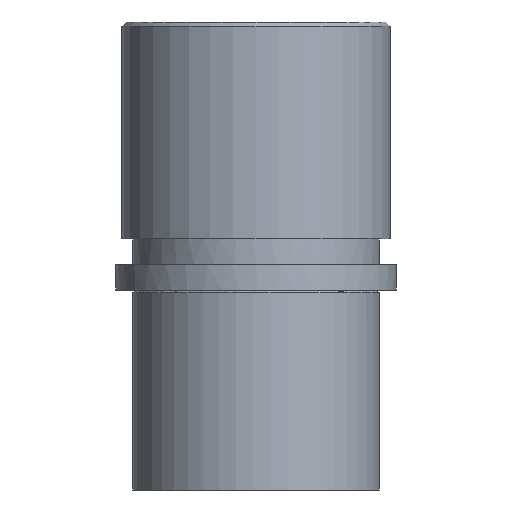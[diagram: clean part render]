
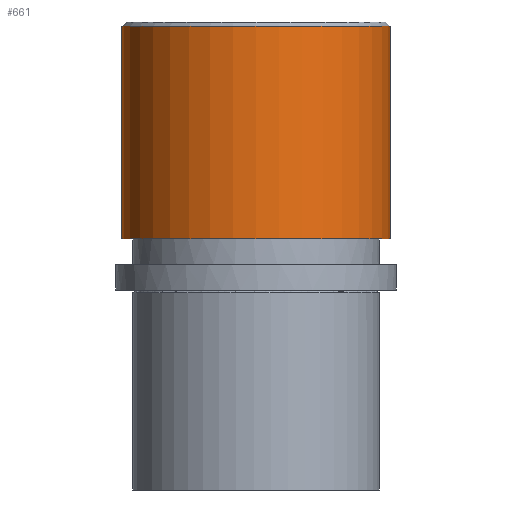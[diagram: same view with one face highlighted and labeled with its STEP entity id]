
A CAD part, front view. The second image highlights one B-rep face of the part: STEP entity #661.
In plain terms, the highlighted cylindrical face has radius 31.5 mm (diameter 63 mm), a partial arc.
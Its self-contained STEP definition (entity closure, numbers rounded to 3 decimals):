
#505=CARTESIAN_POINT('Vertex',(-31.5,0.,62.)) ;
#512=CARTESIAN_POINT('Vertex',(31.5,0.,62.)) ;
#532=CARTESIAN_POINT('Axis2P3D Location',(0.,0.,62.)) ;
#619=CARTESIAN_POINT('Line Origine',(-31.5,0.,63.)) ;
#623=CARTESIAN_POINT('Vertex',(-31.5,0.,12.)) ;
#626=CARTESIAN_POINT('Line Origine',(31.5,0.,63.)) ;
#630=CARTESIAN_POINT('Vertex',(31.5,0.,12.)) ;
#645=CARTESIAN_POINT('Axis2P3D Location',(0.,0.,63.)) ;
#650=CARTESIAN_POINT('Axis2P3D Location',(0.,0.,12.)) ;
#533=DIRECTION('Axis2P3D Direction',(0.,0.,-1.)) ;
#620=DIRECTION('Vector Direction',(0.,0.,-1.)) ;
#627=DIRECTION('Vector Direction',(0.,0.,-1.)) ;
#646=DIRECTION('Axis2P3D Direction',(0.,0.,-1.)) ;
#647=DIRECTION('Axis2P3D XDirection',(1.,0.,0.)) ;
#651=DIRECTION('Axis2P3D Direction',(0.,0.,-1.)) ;
#534=AXIS2_PLACEMENT_3D('Circle Axis2P3D',#532,#533,$) ;
#648=AXIS2_PLACEMENT_3D('Cylinder Axis2P3D',#645,#646,#647) ;
#652=AXIS2_PLACEMENT_3D('Circle Axis2P3D',#650,#651,$) ;
#656=ORIENTED_EDGE('',*,*,#632,.T.) ;
#657=ORIENTED_EDGE('',*,*,#536,.F.) ;
#658=ORIENTED_EDGE('',*,*,#625,.T.) ;
#659=ORIENTED_EDGE('',*,*,#654,.T.) ;
#621=VECTOR('Line Direction',#620,1.) ;
#628=VECTOR('Line Direction',#627,1.) ;
#661=ADVANCED_FACE('734-40 nau',(#660),#649,.T.) ;
#535=CIRCLE('generated circle',#534,31.5) ;
#653=CIRCLE('generated circle',#652,31.5) ;
#649=CYLINDRICAL_SURFACE('generated cylinder',#648,31.5) ;
#536=EDGE_CURVE('',#506,#513,#535,.F.) ;
#625=EDGE_CURVE('',#506,#624,#622,.T.) ;
#632=EDGE_CURVE('',#631,#513,#629,.F.) ;
#654=EDGE_CURVE('',#624,#631,#653,.F.) ;
#655=EDGE_LOOP('',(#656,#657,#658,#659)) ;
#660=FACE_OUTER_BOUND('',#655,.T.) ;
#622=LINE('Line',#619,#621) ;
#629=LINE('Line',#626,#628) ;
#506=VERTEX_POINT('',#505) ;
#513=VERTEX_POINT('',#512) ;
#624=VERTEX_POINT('',#623) ;
#631=VERTEX_POINT('',#630) ;
